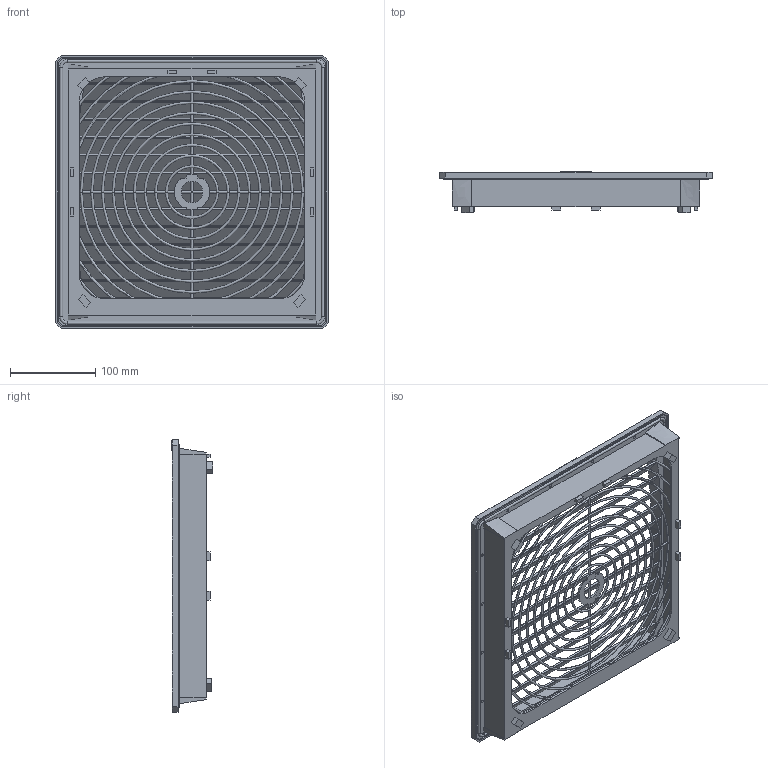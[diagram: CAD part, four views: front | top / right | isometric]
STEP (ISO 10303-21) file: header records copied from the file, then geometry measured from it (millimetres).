
FILE_DESCRIPTION (( 'STEP AP214' ), '1' );
FILE_NAME ('PFA 60000_AP214.STEP', '2019-05-24T11:31:57', ( '' ), ( '' ), 'SwSTEP 2.0', 'SolidWorks 2017', '' );
FILE_SCHEMA (( 'AUTOMOTIVE_DESIGN' ));
Length unit declared in the file: millimetre
Products named in the file (4): PFA 60000_AP214; housing PF6x; 30162-013; cover PF6x
Assembly tree (3 placements, depth 2):
  PFA 60000_AP214
    housing PF6x
    cover PF6x
    30162-013
Bounding box: 320 x 48.44 x 320 mm (x, y, z)
Volume: 630132.2 mm3; surface area: 497689.6 mm2
Topology: 4 solids, 4 shells, 1382 faces, 3859 edges, 2512 vertices
Faces by surface type: plane 708, cylinder 342, bspline 240, torus 60, cone 32
Entity records: 58850 total; most frequent: CARTESIAN_POINT 25093, ORIENTED_EDGE 7718, DIRECTION 5829, EDGE_CURVE 3859, VERTEX_POINT 2512, VECTOR 2101, LINE 2101, AXIS2_PLACEMENT_3D 1864
